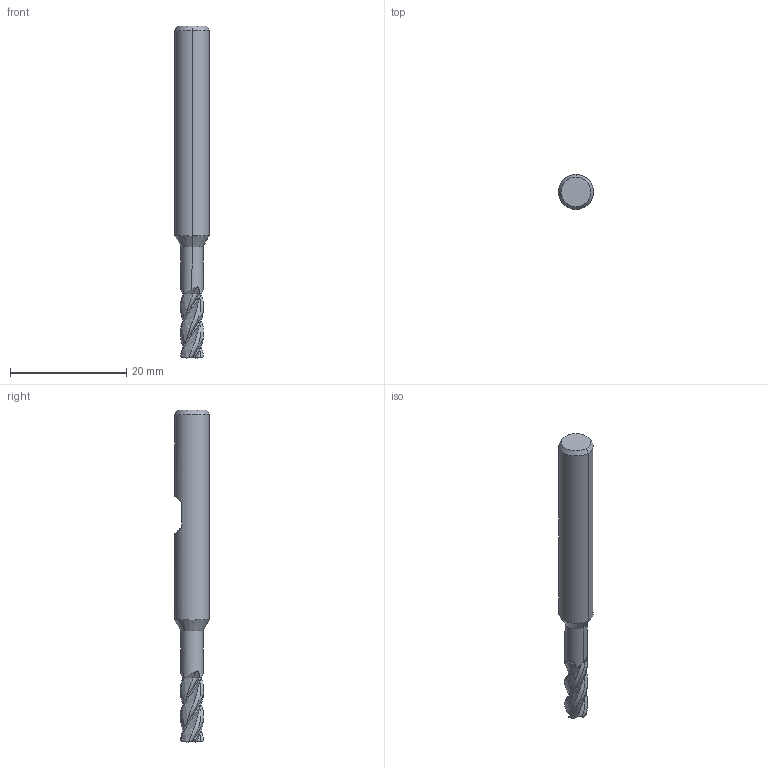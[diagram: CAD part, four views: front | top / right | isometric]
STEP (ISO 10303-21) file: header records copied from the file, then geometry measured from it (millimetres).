
FILE_DESCRIPTION(('no description'),'unknown implementation level');
FILE_NAME('solidEnoWp4jU2h4BrbgdsWn5QBOywQg_1.STP',' ',('CIMSOURCE GmbH'),('CADClick - KiM GmbH - www.kimweb.de'),'unknown preprocess','ACIS','unknown authorization');
FILE_SCHEMA(('automotive_design'));
Length unit declared in the file: millimetre
Products named in the file (2): NOCUT; CUT
Bounding box: 6 x 6 x 57 mm (x, y, z)
Volume: 1194.2 mm3; surface area: 1131.8 mm2
Topology: 2 solids, 2 shells, 121 faces, 336 edges, 218 vertices
Faces by surface type: bspline 44, plane 23, cone 20, cylinder 16, revolution 12, torus 6
Entity records: 18818 total; most frequent: CARTESIAN_POINT 12377, STYLED_ITEM 677, PRESENTATION_STYLE_ASSIGNMENT 677, COLOUR_RGB 677, ORIENTED_EDGE 672, DIRECTION 378, EDGE_CURVE 336, CURVE_STYLE 336
